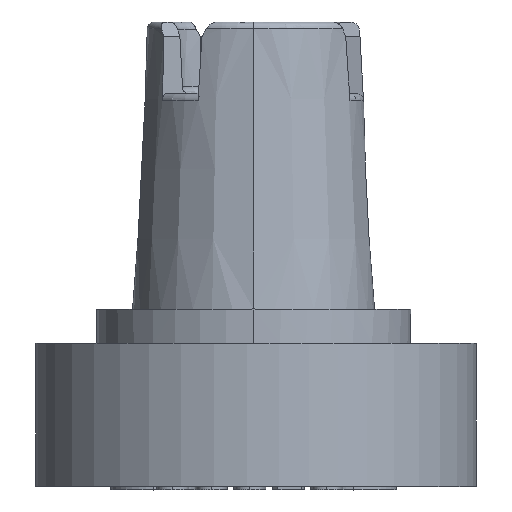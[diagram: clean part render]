
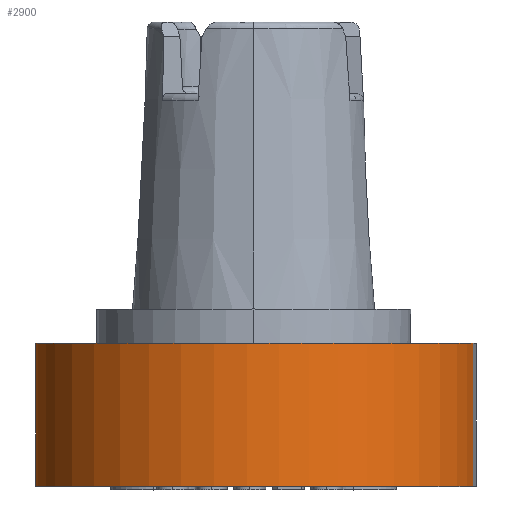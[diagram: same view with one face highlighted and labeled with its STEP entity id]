
A CAD part, top view. The second image highlights one B-rep face of the part: STEP entity #2900.
In plain terms, the highlighted free-form (B-spline) face has degree [3, 1] with [12, 2] control points.
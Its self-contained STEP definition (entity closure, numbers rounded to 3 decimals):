
#144 = CARTESIAN_POINT ( 'NONE',  ( -15.191, 0., 3.55 ) ) ;
#181 = CARTESIAN_POINT ( 'NONE',  ( -15.245, 10., 3.315 ) ) ;
#281 = CARTESIAN_POINT ( 'NONE',  ( -15.212, 0., 3.457 ) ) ;
#659 = EDGE_CURVE ( 'NONE', #5383, #3062, #3493, .T. ) ;
#678 = ORIENTED_EDGE ( 'NONE', *, *, #1537, .F. ) ;
#772 = DIRECTION ( 'NONE',  ( 0., -1., 0. ) ) ;
#821 =( BOUNDED_SURFACE ( )  B_SPLINE_SURFACE ( 3, 1, ( 
 ( #990, #4937 ),
 ( #1101, #1068 ),
 ( #4400, #6847 ),
 ( #3999, #281 ),
 ( #3938, #144 ),
 ( #2820, #1462 ),
 ( #1067, #2979 ),
 ( #2416, #3560 ),
 ( #2295, #2541 ),
 ( #1305, #3893 ),
 ( #4415, #3913 ),
 ( #4802, #4629 ) ),
 .UNSPECIFIED., .F., .F., .T. ) 
 B_SPLINE_SURFACE_WITH_KNOTS ( ( 4, 1, 1, 3, 3, 4 ),
 ( 2, 2 ),
 ( 0., 0.002, 0.004, 0.006, 0.295, 0.5 ),
 ( 0., 1. ),
 .UNSPECIFIED. ) 
 GEOMETRIC_REPRESENTATION_ITEM ( )  RATIONAL_B_SPLINE_SURFACE ( (
 ( 1., 1.),
 ( 1., 1.),
 ( 1., 1.),
 ( 1., 1.),
 ( 1., 1.),
 ( 1., 1.),
 ( 0.8, 0.8),
 ( 0.8, 0.8),
 ( 1., 1.),
 ( 0.858, 0.858),
 ( 0.817, 0.817),
 ( 0.876, 0.876) ) ) 
 REPRESENTATION_ITEM ( '' )  SURFACE ( )  );
#990 = CARTESIAN_POINT ( 'NONE',  ( -15.253, 10., 3.17 ) ) ;
#1017 = VERTEX_POINT ( 'NONE', #1734 ) ;
#1067 = CARTESIAN_POINT ( 'NONE',  ( -13.036, 10., 12.641 ) ) ;
#1068 = CARTESIAN_POINT ( 'NONE',  ( -15.252, 0., 3.219 ) ) ;
#1101 = CARTESIAN_POINT ( 'NONE',  ( -15.252, 10., 3.219 ) ) ;
#1305 = CARTESIAN_POINT ( 'NONE',  ( 9.854, 10., 13.558 ) ) ;
#1418 = ORIENTED_EDGE ( 'NONE', *, *, #2903, .T. ) ;
#1440 = CARTESIAN_POINT ( 'NONE',  ( -15.253, 10., 3.17 ) ) ;
#1462 = CARTESIAN_POINT ( 'NONE',  ( -15.18, 0., 3.597 ) ) ;
#1491 = LINE ( 'NONE', #6985, #5526 ) ;
#1513 = CARTESIAN_POINT ( 'NONE',  ( -15.245, 0., 3.315 ) ) ;
#1537 = EDGE_CURVE ( 'NONE', #5383, #4982, #1674, .T. ) ;
#1556 = CARTESIAN_POINT ( 'NONE',  ( -15.252, 0., 3.219 ) ) ;
#1597 = ORIENTED_EDGE ( 'NONE', *, *, #659, .T. ) ;
#1674 =( BOUNDED_CURVE ( )  B_SPLINE_CURVE ( 3, ( #4341, #4380, #181, #6779, #6380, #6992, #7010, #6938, #5389, #6927, #2014, #6066 ),
 .UNSPECIFIED., .F., .T. ) 
 B_SPLINE_CURVE_WITH_KNOTS ( ( 4, 1, 1, 3, 3, 4 ),
 ( 0., 0.002, 0.004, 0.006, 0.295, 0.5 ),
 .UNSPECIFIED. ) 
 CURVE ( )  GEOMETRIC_REPRESENTATION_ITEM ( )  RATIONAL_B_SPLINE_CURVE ( ( 1., 1., 1., 1., 1., 1., 0.8, 0.8, 1., 0.858, 0.817, 0.876 ) ) 
 REPRESENTATION_ITEM ( '' )  );
#1734 = CARTESIAN_POINT ( 'NONE',  ( 15.363, 0., 2.712 ) ) ;
#1880 = ORIENTED_EDGE ( 'NONE', *, *, #4144, .F. ) ;
#2014 = CARTESIAN_POINT ( 'NONE',  ( 14.243, 10., 9.053 ) ) ;
#2236 =( BOUNDED_CURVE ( )  B_SPLINE_CURVE ( 3, ( #5058, #1556, #1513, #6482, #3479, #5461, #6106, #5744, #5543, #6280, #5573, #5674 ),
 .UNSPECIFIED., .F., .T. ) 
 B_SPLINE_CURVE_WITH_KNOTS ( ( 4, 1, 1, 3, 3, 4 ),
 ( 0., 0.002, 0.004, 0.006, 0.295, 0.5 ),
 .UNSPECIFIED. ) 
 CURVE ( )  GEOMETRIC_REPRESENTATION_ITEM ( )  RATIONAL_B_SPLINE_CURVE ( ( 1., 1., 1., 1., 1., 1., 0.8, 0.8, 1., 0.858, 0.817, 0.876 ) ) 
 REPRESENTATION_ITEM ( '' )  );
#2295 = CARTESIAN_POINT ( 'NONE',  ( 3.923, 10., 15.099 ) ) ;
#2416 = CARTESIAN_POINT ( 'NONE',  ( -5.074, 10., 17.436 ) ) ;
#2541 = CARTESIAN_POINT ( 'NONE',  ( 3.923, 0., 15.099 ) ) ;
#2820 = CARTESIAN_POINT ( 'NONE',  ( -15.18, 10., 3.597 ) ) ;
#2900 = ADVANCED_FACE ( 'NONE', ( #4844 ), #821, .F. ) ;
#2903 = EDGE_CURVE ( 'NONE', #3062, #1017, #2236, .T. ) ;
#2979 = CARTESIAN_POINT ( 'NONE',  ( -13.036, 0., 12.641 ) ) ;
#3062 = VERTEX_POINT ( 'NONE', #6171 ) ;
#3479 = CARTESIAN_POINT ( 'NONE',  ( -15.191, 0., 3.55 ) ) ;
#3493 = LINE ( 'NONE', #1440, #4940 ) ;
#3560 = CARTESIAN_POINT ( 'NONE',  ( -5.074, 0., 17.436 ) ) ;
#3893 = CARTESIAN_POINT ( 'NONE',  ( 9.854, 0., 13.558 ) ) ;
#3913 = CARTESIAN_POINT ( 'NONE',  ( 14.243, 0., 9.053 ) ) ;
#3938 = CARTESIAN_POINT ( 'NONE',  ( -15.191, 10., 3.55 ) ) ;
#3999 = CARTESIAN_POINT ( 'NONE',  ( -15.212, 10., 3.457 ) ) ;
#4144 = EDGE_CURVE ( 'NONE', #4982, #1017, #1491, .T. ) ;
#4237 = DIRECTION ( 'NONE',  ( 0., -1., 0. ) ) ;
#4341 = CARTESIAN_POINT ( 'NONE',  ( -15.253, 10., 3.17 ) ) ;
#4380 = CARTESIAN_POINT ( 'NONE',  ( -15.252, 10., 3.219 ) ) ;
#4400 = CARTESIAN_POINT ( 'NONE',  ( -15.245, 10., 3.315 ) ) ;
#4415 = CARTESIAN_POINT ( 'NONE',  ( 14.243, 10., 9.053 ) ) ;
#4629 = CARTESIAN_POINT ( 'NONE',  ( 15.363, 0., 2.712 ) ) ;
#4773 = CARTESIAN_POINT ( 'NONE',  ( 15.363, 10., 2.712 ) ) ;
#4802 = CARTESIAN_POINT ( 'NONE',  ( 15.363, 10., 2.712 ) ) ;
#4844 = FACE_OUTER_BOUND ( 'NONE', #6315, .T. ) ;
#4937 = CARTESIAN_POINT ( 'NONE',  ( -15.253, 0., 3.17 ) ) ;
#4940 = VECTOR ( 'NONE', #4237, 1000. ) ;
#4982 = VERTEX_POINT ( 'NONE', #4773 ) ;
#5058 = CARTESIAN_POINT ( 'NONE',  ( -15.253, 0., 3.17 ) ) ;
#5383 = VERTEX_POINT ( 'NONE', #6120 ) ;
#5389 = CARTESIAN_POINT ( 'NONE',  ( 3.923, 10., 15.099 ) ) ;
#5461 = CARTESIAN_POINT ( 'NONE',  ( -15.18, 0., 3.597 ) ) ;
#5526 = VECTOR ( 'NONE', #772, 1000. ) ;
#5543 = CARTESIAN_POINT ( 'NONE',  ( 3.923, 0., 15.099 ) ) ;
#5573 = CARTESIAN_POINT ( 'NONE',  ( 14.243, 0., 9.053 ) ) ;
#5674 = CARTESIAN_POINT ( 'NONE',  ( 15.363, 0., 2.712 ) ) ;
#5744 = CARTESIAN_POINT ( 'NONE',  ( -5.074, 0., 17.436 ) ) ;
#6066 = CARTESIAN_POINT ( 'NONE',  ( 15.363, 10., 2.712 ) ) ;
#6106 = CARTESIAN_POINT ( 'NONE',  ( -13.036, 0., 12.641 ) ) ;
#6120 = CARTESIAN_POINT ( 'NONE',  ( -15.253, 10., 3.17 ) ) ;
#6171 = CARTESIAN_POINT ( 'NONE',  ( -15.253, 0., 3.17 ) ) ;
#6280 = CARTESIAN_POINT ( 'NONE',  ( 9.854, 0., 13.558 ) ) ;
#6315 = EDGE_LOOP ( 'NONE', ( #1880, #678, #1597, #1418 ) ) ;
#6380 = CARTESIAN_POINT ( 'NONE',  ( -15.191, 10., 3.55 ) ) ;
#6482 = CARTESIAN_POINT ( 'NONE',  ( -15.212, 0., 3.457 ) ) ;
#6779 = CARTESIAN_POINT ( 'NONE',  ( -15.212, 10., 3.457 ) ) ;
#6847 = CARTESIAN_POINT ( 'NONE',  ( -15.245, 0., 3.315 ) ) ;
#6927 = CARTESIAN_POINT ( 'NONE',  ( 9.854, 10., 13.558 ) ) ;
#6938 = CARTESIAN_POINT ( 'NONE',  ( -5.074, 10., 17.436 ) ) ;
#6985 = CARTESIAN_POINT ( 'NONE',  ( 15.363, 10., 2.712 ) ) ;
#6992 = CARTESIAN_POINT ( 'NONE',  ( -15.18, 10., 3.597 ) ) ;
#7010 = CARTESIAN_POINT ( 'NONE',  ( -13.036, 10., 12.641 ) ) ;
